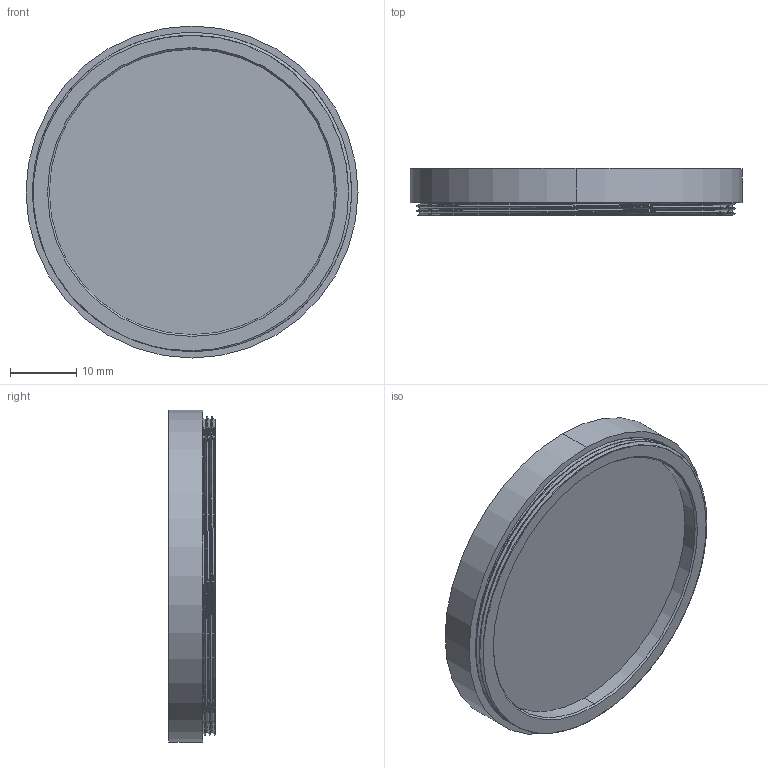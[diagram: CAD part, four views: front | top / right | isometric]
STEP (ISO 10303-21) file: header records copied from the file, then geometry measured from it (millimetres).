
FILE_DESCRIPTION (( 'STEP AP214' ), '1' );
FILE_NAME ('M48 x P0.75.STEP', '2023-01-19T08:18:04', ( '' ), ( '' ), 'SwSTEP 2.0', 'SolidWorks 2021', '' );
FILE_SCHEMA (( 'AUTOMOTIVE_DESIGN' ));
Length unit declared in the file: millimetre
Products named in the file (1): M48 x P0.75
Bounding box: 50 x 7 x 50 mm (x, y, z)
Volume: 2762.2 mm3; surface area: 7426.7 mm2
Topology: 3 solids, 3 shells, 47 faces, 113 edges, 75 vertices
Faces by surface type: cylinder 26, plane 11, bspline 8, cone 2
Entity records: 3094 total; most frequent: CARTESIAN_POINT 2071, ORIENTED_EDGE 226, DIRECTION 172, EDGE_CURVE 113, VERTEX_POINT 75, AXIS2_PLACEMENT_3D 72, EDGE_LOOP 54, ADVANCED_FACE 47
